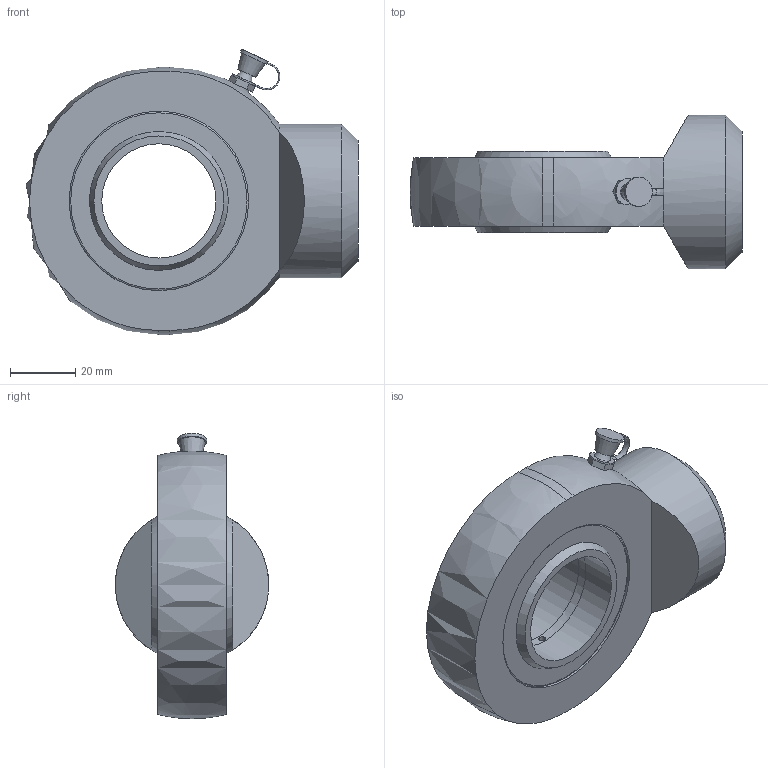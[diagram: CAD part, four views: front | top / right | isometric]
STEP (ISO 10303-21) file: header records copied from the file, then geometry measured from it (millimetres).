
FILE_DESCRIPTION( ( 'Unknown' ), '1' );
FILE_NAME( 'E:/LIBRERIA_3d/SNODI INDUSTRIALI/CSTS035C00.stp', 'Unknown', ( 'Unknown' ), ( 'Unknown' ), 'PSStep 17.0.49', 'Unknown', ' ' );
FILE_SCHEMA( ( 'AUTOMOTIVE_DESIGN { 1 0 10303 214 1 1 1 1 }' ) );
Length unit declared in the file: millimetre
Products named in the file (6): CSTSF035C0; AN00006001; tsc35c_CORPO; Assem1; CGE0350000; APGR013000
Assembly tree (5 placements, depth 3):
  Assem1
    CGE0350000
    APGR013000
    CSTSF035C0
      AN00006001
      tsc35c_CORPO
Bounding box: 101.7 x 46.96 x 87.47 mm (x, y, z)
Volume: 126741.5 mm3; surface area: 29566.9 mm2
Topology: 4 solids, 4 shells, 70 faces, 158 edges, 99 vertices
Faces by surface type: plane 30, cylinder 20, torus 8, sphere 5, bspline 5, cone 2
Full cylindrical faces by diameter (mm): 2 x2, 4 x1, 5 x3, 6 x1, 8 x1, 9 x1, 35 x2, 47 x1, 55 x3
Entity records: 2893 total; most frequent: CARTESIAN_POINT 1224, DIRECTION 298, ORIENTED_EDGE 206, AXIS2_PLACEMENT_3D 136, EDGE_LOOP 122, EDGE_CURVE 103, FACE_OUTER_BOUND 99, VERTEX_POINT 82
